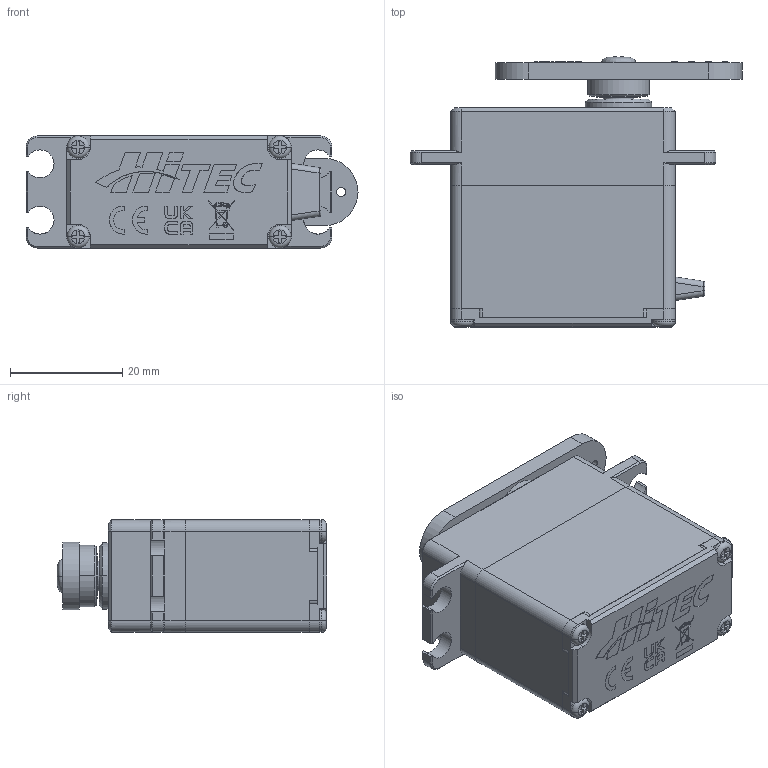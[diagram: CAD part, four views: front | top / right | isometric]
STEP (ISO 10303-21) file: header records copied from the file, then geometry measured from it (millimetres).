
FILE_DESCRIPTION((''),'2;1');
FILE_NAME('MDB961WP_MDB951WP_MDB961-CAN_AS_ASM','2023-09-13T',('sangmin.kim'),(''),'CREO PARAMETRIC BY PTC INC, 2016050','CREO PARAMETRIC BY PTC INC, 2016050','');
FILE_SCHEMA(('CONFIG_CONTROL_DESIGN'));
Products named in the file (12): X700T_AL6061_120101010164_1; X700L_AL6061_120101030153_1; X700M-4P_AL6061_120101020163_1; X700SG5F-HP_S45C_120212000823_1; X700SG5_S45C_120212000661_ASM_1_ASM; 10A_CBH_M2XL28_120201000150_1; HD-IM25_PA66_120217000084_1; TW_6_5X3_2_SUS_120204000048_1; CBH_M3XL5_SUS_120201000113_1; 120208000024_11X8X3_METAL_RING_; WP_4P_BUSHING_120105020037_1; MDB961WP_MDB951WP_MDB961-CAN_AS_ASM
Assembly tree (14 placements, depth 3):
  MDB961WP_MDB951WP_MDB961-CAN_AS_ASM
    X700T_AL6061_120101010164_1
    X700L_AL6061_120101030153_1
    X700M-4P_AL6061_120101020163_1
    X700SG5_S45C_120212000661_ASM_1_ASM
      X700SG5F-HP_S45C_120212000823_1
    10A_CBH_M2XL28_120201000150_1  x4
    HD-IM25_PA66_120217000084_1
    TW_6_5X3_2_SUS_120204000048_1
    CBH_M3XL5_SUS_120201000113_1
    120208000024_11X8X3_METAL_RING_
    WP_4P_BUSHING_120105020037_1
Bounding box: 59.15 x 48.1 x 20 mm (x, y, z)
Volume: 33124.7 mm3; surface area: 14773.6 mm2
Topology: 13 solids, 13 shells, 1975 faces, 5606 edges, 3717 vertices
Faces by surface type: plane 1105, cylinder 524, cone 141, bspline 102, torus 79, extrusion 22, revolution 2
Entity records: 76269 total; most frequent: CARTESIAN_POINT 19395, ORIENTED_EDGE 9618, DIRECTION 8653, EDGE_CURVE 4809, PRESENTATION_STYLE_ASSIGNMENT 4133, STYLED_ITEM 4133, CURVE_STYLE 4119, VECTOR 3295
